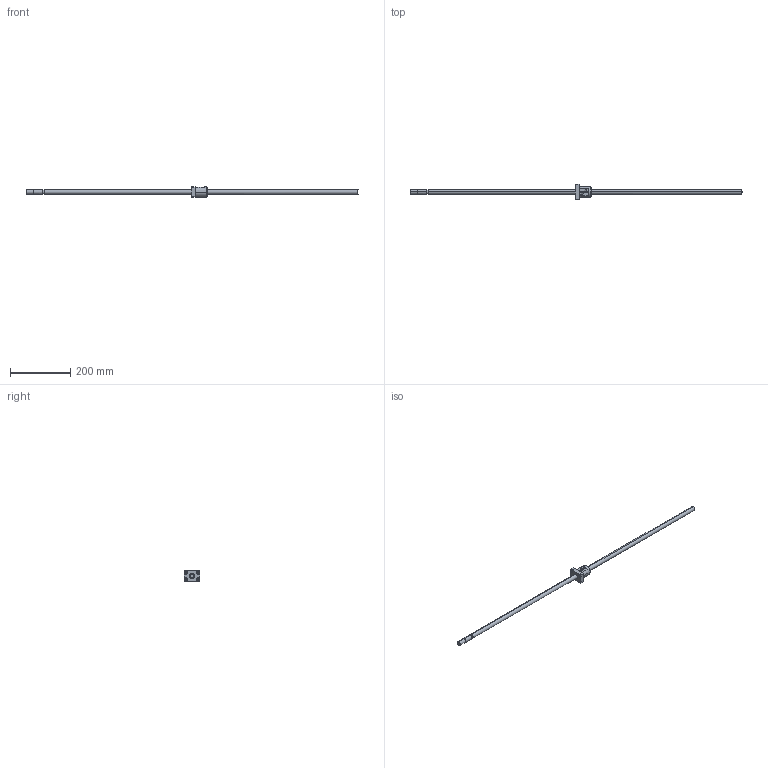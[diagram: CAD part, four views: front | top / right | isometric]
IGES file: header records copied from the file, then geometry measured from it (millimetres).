
Global section: file name: No Iges File Name specified; native system: AutoDesk Inventor R10; preprocessor: AutoDesk Inventor Iges Exporter R10; author: No Author specified; organization: No Organization specified; date: 20101224.140757; units: millimetre
Bounding box: 1100 x 50 x 34 mm (x, y, z)
Surface area: 65433.1 mm2 (no closed solid volume)
Topology: 0 solids, 0 shells, 132 faces, 940 edges, 940 vertices
Faces by surface type: bspline 132
